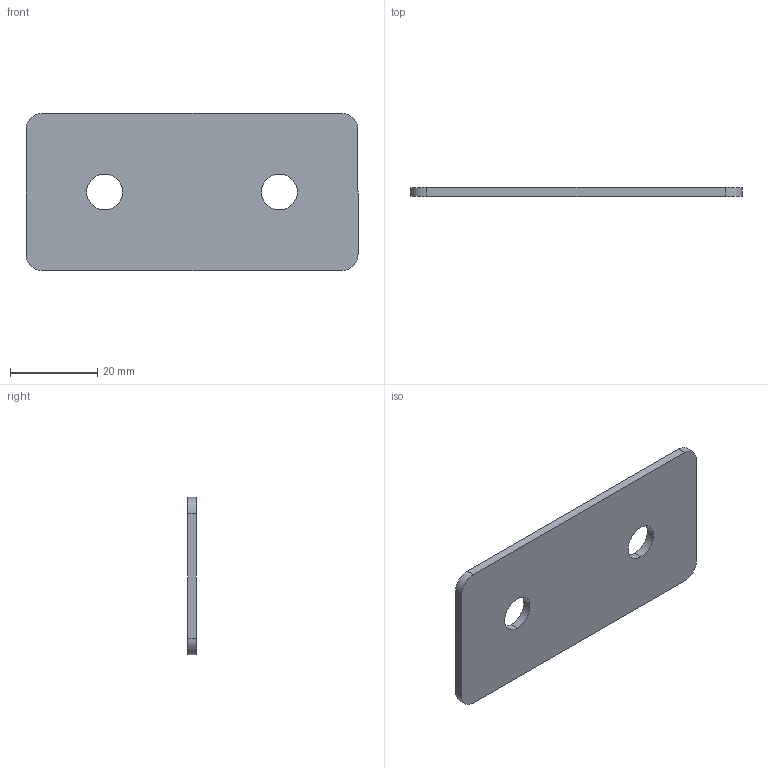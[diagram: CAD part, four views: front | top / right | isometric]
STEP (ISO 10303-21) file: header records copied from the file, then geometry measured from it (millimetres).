
FILE_DESCRIPTION (( 'STEP AP203' ), '1' );
FILE_NAME ('ﾏ-2-40.STEP', '2016-07-23T14:27:35', ( '' ), ( '' ), 'SwSTEP 2.0', 'SolidWorks 2014', '' );
FILE_SCHEMA (( 'CONFIG_CONTROL_DESIGN' ));
Length unit declared in the file: millimetre
Products named in the file (1): ﾏ-2-40
Bounding box: 76 x 2 x 36 mm (x, y, z)
Volume: 5236.2 mm3; surface area: 5774.2 mm2
Topology: 1 solids, 1 shells, 14 faces, 36 edges, 24 vertices
Faces by surface type: cylinder 8, plane 6
Entity records: 521 total; most frequent: DIRECTION 82, CARTESIAN_POINT 75, ORIENTED_EDGE 72, EDGE_CURVE 36, AXIS2_PLACEMENT_3D 31, VERTEX_POINT 24, VECTOR 20, LINE 20
